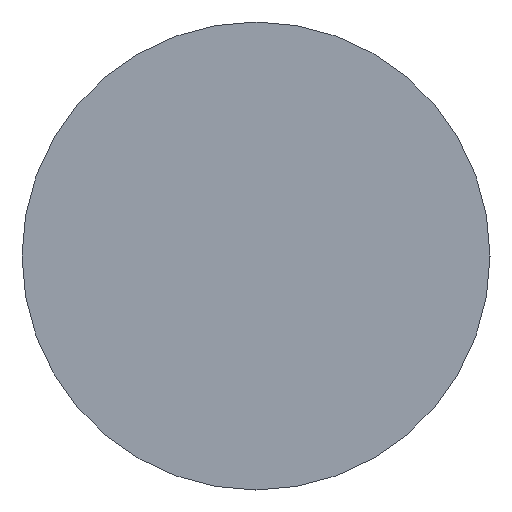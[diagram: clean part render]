
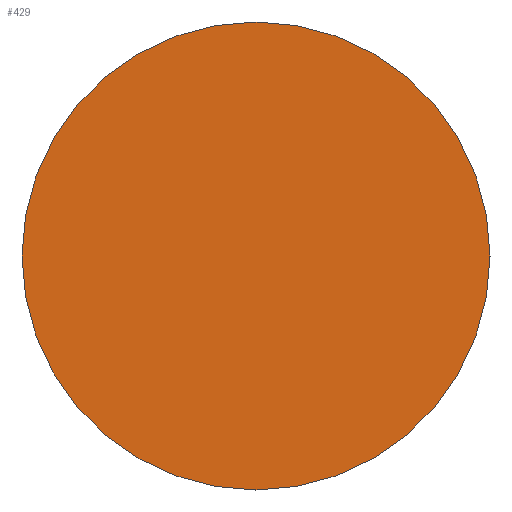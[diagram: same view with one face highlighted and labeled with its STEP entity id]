
A CAD part, left-side view. The second image highlights one B-rep face of the part: STEP entity #429.
In plain terms, the highlighted planar face has unit normal (-1, 0, 0).
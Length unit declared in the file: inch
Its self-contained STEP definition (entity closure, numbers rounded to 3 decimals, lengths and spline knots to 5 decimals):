
#10 = EDGE_LOOP ( 'NONE', ( #392, #231 ) ) ;
#21 = EDGE_CURVE ( 'NONE', #330, #501, #436, .T. ) ;
#36 = CIRCLE ( 'NONE', #106, 0.3125 ) ;
#52 = PLANE ( 'NONE',  #89 ) ;
#54 = DIRECTION ( 'NONE',  ( 0., 0., 1. ) ) ;
#58 = DIRECTION ( 'NONE',  ( 0., 0., 1. ) ) ;
#78 = DIRECTION ( 'NONE',  ( 1., 0., 0. ) ) ;
#89 = AXIS2_PLACEMENT_3D ( 'NONE', #206, #78, #360 ) ;
#106 = AXIS2_PLACEMENT_3D ( 'NONE', #181, #417, #58 ) ;
#179 = CARTESIAN_POINT ( 'NONE',  ( -6., 0., 0.3125 ) ) ;
#181 = CARTESIAN_POINT ( 'NONE',  ( -6., 0., 0. ) ) ;
#206 = CARTESIAN_POINT ( 'NONE',  ( -6., 0.3125, 0. ) ) ;
#221 = AXIS2_PLACEMENT_3D ( 'NONE', #494, #449, #54 ) ;
#231 = ORIENTED_EDGE ( 'NONE', *, *, #21, .T. ) ;
#277 = CARTESIAN_POINT ( 'NONE',  ( -6., 0., -0.3125 ) ) ;
#330 = VERTEX_POINT ( 'NONE', #277 ) ;
#360 = DIRECTION ( 'NONE',  ( 0., 0., -1. ) ) ;
#392 = ORIENTED_EDGE ( 'NONE', *, *, #492, .T. ) ;
#417 = DIRECTION ( 'NONE',  ( -1., 0., 0. ) ) ;
#429 = ADVANCED_FACE ( 'NONE', ( #444 ), #52, .F. ) ;
#436 = CIRCLE ( 'NONE', #221, 0.3125 ) ;
#444 = FACE_OUTER_BOUND ( 'NONE', #10, .T. ) ;
#449 = DIRECTION ( 'NONE',  ( -1., 0., 0. ) ) ;
#492 = EDGE_CURVE ( 'NONE', #501, #330, #36, .T. ) ;
#494 = CARTESIAN_POINT ( 'NONE',  ( -6., 0., 0. ) ) ;
#501 = VERTEX_POINT ( 'NONE', #179 ) ;
